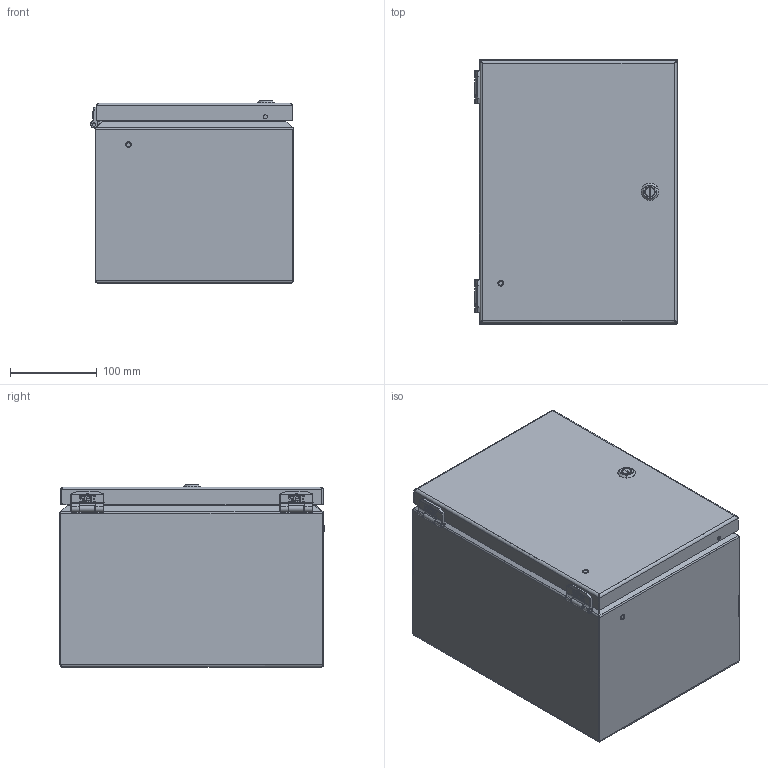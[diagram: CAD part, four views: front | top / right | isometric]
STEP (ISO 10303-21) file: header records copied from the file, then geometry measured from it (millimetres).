
FILE_DESCRIPTION((''),'2;1');
FILE_NAME('MODEL-096_ASM','2021-05-27T13:05:49',('chads'),('SAGINAW CONTROL & ENGINEERING'),'CREO PARAMETRIC BY PTC INC, 2017260','CREO PARAMETRIC BY PTC INC, 2017260','');
FILE_SCHEMA(('AUTOMOTIVE_DESIGN { 1 0 10303 214 1 1 1 1 }'));
Length unit declared in the file: inch
Products named in the file (25): MODEL-096-BDY; MODEL-096-DR; 112643-BOX-LEAF; 112643-BOX-LEAF-STUD; 112643-BOX_ASM; 112643-DOOR-LEAF; 112643-DOOR-LEAF-STUD; 112643-DOOR_ASM; 112643-PIN; 112643_ASM; 113152; 100063; 112987_SHAFT; 112987_INSERT; 112984; 112987_SCREW; 112987_NUT; 112987_ASM; 100009; MODEL-096-GSKT; 120706; CH-ELJ_SUBPANEL; 102479; CH-ELJ_SUBPANEL-SUBASSEMBLY_ASM; MODEL-096_ASM
Assembly tree (35 placements, depth 4):
  MODEL-096_ASM
    MODEL-096-BDY
    MODEL-096-DR
    112643_ASM  x2
      112643-BOX_ASM
        112643-BOX-LEAF
        112643-BOX-LEAF-STUD
      112643-DOOR_ASM
        112643-DOOR-LEAF
        112643-DOOR-LEAF-STUD
      112643-PIN
    113152  x4
    100063  x2
    112987_ASM
      112987_SHAFT
      112987_INSERT
      112984
      112987_SCREW
      112987_NUT
    100009  x4
    MODEL-096-GSKT
    120706
    CH-ELJ_SUBPANEL-SUBASSEMBLY_ASM
      CH-ELJ_SUBPANEL
      102479  x4
Bounding box: 234.2 x 304.9 x 210.71 mm (x, y, z)
Volume: 733726.5 mm3; surface area: 910964.3 mm2
Topology: 34 solids, 36 shells, 2960 faces, 7563 edges, 4636 vertices
Faces by surface type: plane 1006, cylinder 862, bspline 830, cone 126, torus 116, sphere 20
Entity records: 101033 total; most frequent: CARTESIAN_POINT 54483, ORIENTED_EDGE 6990, DIRECTION 5960, EDGE_CURVE 3495, PRESENTATION_STYLE_ASSIGNMENT 3103, STYLED_ITEM 3103, CURVE_STYLE 2846, AXIS2_PLACEMENT_3D 2204
